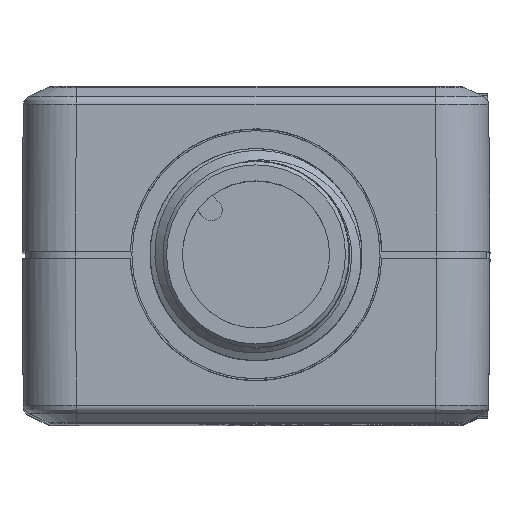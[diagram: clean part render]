
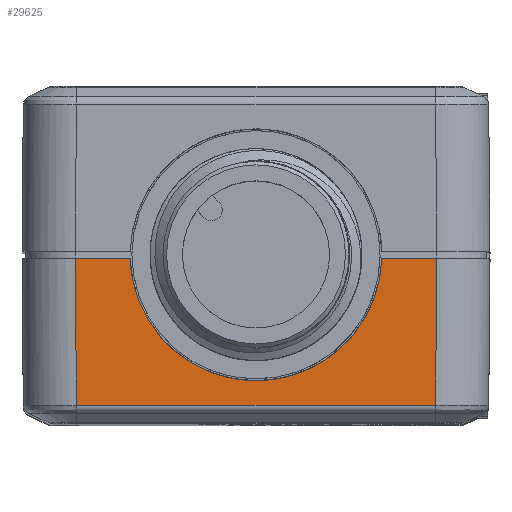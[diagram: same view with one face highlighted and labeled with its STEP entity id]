
A CAD part, top view. The second image highlights one B-rep face of the part: STEP entity #29625.
In plain terms, the highlighted planar face has unit normal (0, -0.009, 1).
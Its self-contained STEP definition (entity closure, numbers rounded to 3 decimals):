
#25132=CARTESIAN_POINT('',(-7.097,-0.2,-0.002));
#25133=VERTEX_POINT('',#25132);
#25140=CARTESIAN_POINT('',(7.097,-0.2,-0.002));
#25141=VERTEX_POINT('',#25140);
#25142=CARTESIAN_POINT('',(0.0,0.0,0.));
#25143=DIRECTION('',(0.,0.009,-1.));
#25144=DIRECTION('',(0.0,1.,0.009));
#25145=AXIS2_PLACEMENT_3D('',#25142,#25143,#25144);
#25146=ELLIPSE('',#25145,7.1,7.1);
#25147=EDGE_CURVE('',#25141,#25133,#25146,.T.);
#27405=CARTESIAN_POINT('',(10.198,-0.2,-0.002));
#27406=VERTEX_POINT('',#27405);
#27407=CARTESIAN_POINT('',(10.198,-0.2,-0.002));
#27408=DIRECTION('',(-1.0,0.0,0.0));
#27409=VECTOR('',#27408,3.101);
#27410=LINE('',#27407,#27409);
#27411=EDGE_CURVE('',#27406,#25141,#27410,.T.);
#29568=CARTESIAN_POINT('',(-13.2,0.0,0.));
#29569=DIRECTION('',(0.,-0.009,1.));
#29570=DIRECTION('',(-1.0,0.0,0.0));
#29571=AXIS2_PLACEMENT_3D('',#29568,#29569,#29570);
#29572=PLANE('',#29571);
#29573=ORIENTED_EDGE('',*,*,#25147,.T.);
#29574=CARTESIAN_POINT('',(-10.198,-0.2,-0.002));
#29575=VERTEX_POINT('',#29574);
#29576=CARTESIAN_POINT('',(-7.097,-0.2,-0.002));
#29577=DIRECTION('',(-1.0,0.0,0.0));
#29578=VECTOR('',#29577,3.101);
#29579=LINE('',#29576,#29578);
#29580=EDGE_CURVE('',#25133,#29575,#29579,.T.);
#29581=ORIENTED_EDGE('',*,*,#29580,.T.);
#29582=CARTESIAN_POINT('',(-10.126,-8.482,-0.074));
#29583=VERTEX_POINT('',#29582);
#29584=CARTESIAN_POINT('',(-10.126,-8.482,-0.074));
#29585=DIRECTION('',(-0.009,1.,0.009));
#29586=VECTOR('',#29585,8.283);
#29587=LINE('',#29584,#29586);
#29588=EDGE_CURVE('',#29583,#29575,#29587,.T.);
#29589=ORIENTED_EDGE('',*,*,#29588,.F.);
#29590=CARTESIAN_POINT('',(-10.117,-8.482,-0.074));
#29591=VERTEX_POINT('',#29590);
#29592=CARTESIAN_POINT('',(-10.117,-8.482,-0.074));
#29593=CARTESIAN_POINT('',(-10.12,-8.482,-0.074));
#29594=CARTESIAN_POINT('',(-10.123,-8.482,-0.074));
#29595=CARTESIAN_POINT('',(-10.126,-8.482,-0.074));
#29596=B_SPLINE_CURVE_WITH_KNOTS('',3,(#29592,#29593,#29594,#29595),.UNSPECIFIED.,.F.,.U.,(4,4),(-0.001,0.),.UNSPECIFIED.);
#29597=EDGE_CURVE('',#29591,#29583,#29596,.T.);
#29598=ORIENTED_EDGE('',*,*,#29597,.F.);
#29599=CARTESIAN_POINT('',(10.117,-8.482,-0.074));
#29600=VERTEX_POINT('',#29599);
#29601=CARTESIAN_POINT('',(10.117,-8.482,-0.074));
#29602=DIRECTION('',(-1.0,0.0,0.0));
#29603=VECTOR('',#29602,20.234);
#29604=LINE('',#29601,#29603);
#29605=EDGE_CURVE('',#29600,#29591,#29604,.T.);
#29606=ORIENTED_EDGE('',*,*,#29605,.F.);
#29607=CARTESIAN_POINT('',(10.126,-8.482,-0.074));
#29608=VERTEX_POINT('',#29607);
#29609=CARTESIAN_POINT('',(10.126,-8.482,-0.074));
#29610=CARTESIAN_POINT('',(10.123,-8.482,-0.074));
#29611=CARTESIAN_POINT('',(10.12,-8.482,-0.074));
#29612=CARTESIAN_POINT('',(10.117,-8.482,-0.074));
#29613=B_SPLINE_CURVE_WITH_KNOTS('',3,(#29609,#29610,#29611,#29612),.UNSPECIFIED.,.F.,.U.,(4,4),(-0.001,0.0),.UNSPECIFIED.);
#29614=EDGE_CURVE('',#29608,#29600,#29613,.T.);
#29615=ORIENTED_EDGE('',*,*,#29614,.F.);
#29616=CARTESIAN_POINT('',(10.198,-0.2,-0.002));
#29617=DIRECTION('',(-0.009,-1.,-0.009));
#29618=VECTOR('',#29617,8.283);
#29619=LINE('',#29616,#29618);
#29620=EDGE_CURVE('',#27406,#29608,#29619,.T.);
#29621=ORIENTED_EDGE('',*,*,#29620,.F.);
#29622=ORIENTED_EDGE('',*,*,#27411,.T.);
#29623=EDGE_LOOP('',(#29573,#29581,#29589,#29598,#29606,#29615,#29621,#29622));
#29624=FACE_OUTER_BOUND('',#29623,.T.);
#29625=ADVANCED_FACE('',(#29624),#29572,.T.);
